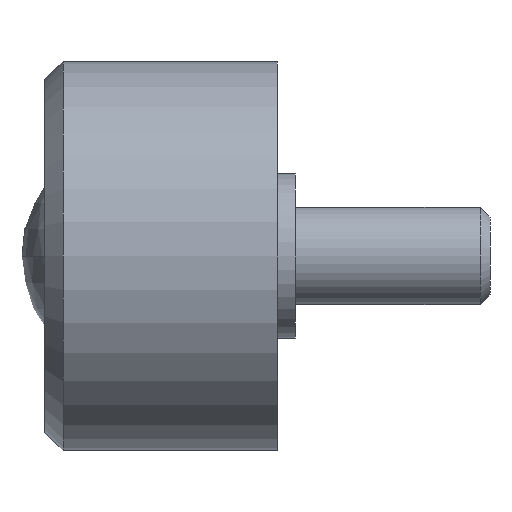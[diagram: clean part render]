
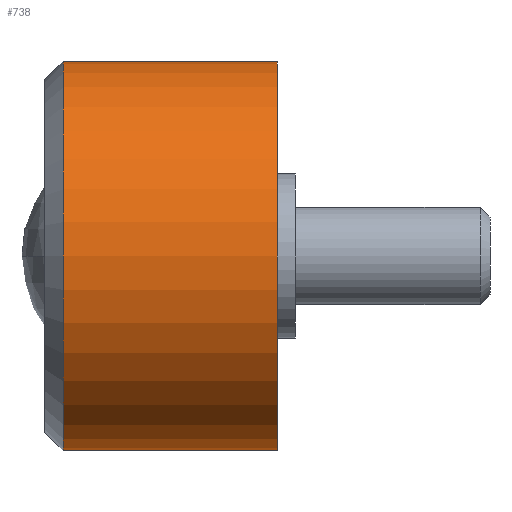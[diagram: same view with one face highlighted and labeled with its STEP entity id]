
A CAD part, left-side view. The second image highlights one B-rep face of the part: STEP entity #738.
In plain terms, the highlighted cylindrical face has radius 16 mm (diameter 32 mm), a partial arc.
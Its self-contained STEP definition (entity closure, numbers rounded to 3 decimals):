
#50 = VECTOR ( 'NONE', #622, 1000. ) ;
#122 = EDGE_CURVE ( 'NONE', #473, #142, #761, .T. ) ;
#137 = AXIS2_PLACEMENT_3D ( 'NONE', #181, #485, #416 ) ;
#142 = VERTEX_POINT ( 'NONE', #421 ) ;
#181 = CARTESIAN_POINT ( 'NONE',  ( 0., 0., 0. ) ) ;
#211 = EDGE_CURVE ( 'NONE', #752, #650, #272, .T. ) ;
#272 = CIRCLE ( 'NONE', #387, 16. ) ;
#292 = CARTESIAN_POINT ( 'NONE',  ( 0., 0., 0. ) ) ;
#295 = FACE_OUTER_BOUND ( 'NONE', #296, .T. ) ;
#296 = EDGE_LOOP ( 'NONE', ( #706, #748, #641, #364 ) ) ;
#315 = LINE ( 'NONE', #436, #530 ) ;
#317 = DIRECTION ( 'NONE',  ( 0., 0., 1. ) ) ;
#355 = CYLINDRICAL_SURFACE ( 'NONE', #740, 16. ) ;
#364 = ORIENTED_EDGE ( 'NONE', *, *, #122, .F. ) ;
#385 = CARTESIAN_POINT ( 'NONE',  ( 0., 17.6, 0. ) ) ;
#387 = AXIS2_PLACEMENT_3D ( 'NONE', #385, #620, #317 ) ;
#390 = CARTESIAN_POINT ( 'NONE',  ( 0., 0., 16. ) ) ;
#416 = DIRECTION ( 'NONE',  ( 0., 0., -1. ) ) ;
#421 = CARTESIAN_POINT ( 'NONE',  ( 0., 0., -16. ) ) ;
#436 = CARTESIAN_POINT ( 'NONE',  ( 0., 0., -16. ) ) ;
#473 = VERTEX_POINT ( 'NONE', #685 ) ;
#482 = DIRECTION ( 'NONE',  ( 0., -1., 0. ) ) ;
#485 = DIRECTION ( 'NONE',  ( 0., -1., 0. ) ) ;
#525 = DIRECTION ( 'NONE',  ( 0., -1., 0. ) ) ;
#530 = VECTOR ( 'NONE', #482, 1000. ) ;
#584 = CARTESIAN_POINT ( 'NONE',  ( 0., 17.6, 16. ) ) ;
#605 = EDGE_CURVE ( 'NONE', #650, #142, #315, .T. ) ;
#620 = DIRECTION ( 'NONE',  ( 0., -1., 0. ) ) ;
#622 = DIRECTION ( 'NONE',  ( 0., -1., 0. ) ) ;
#641 = ORIENTED_EDGE ( 'NONE', *, *, #605, .T. ) ;
#650 = VERTEX_POINT ( 'NONE', #689 ) ;
#685 = CARTESIAN_POINT ( 'NONE',  ( 0., 0., 16. ) ) ;
#689 = CARTESIAN_POINT ( 'NONE',  ( 0., 17.6, -16. ) ) ;
#696 = EDGE_CURVE ( 'NONE', #752, #473, #750, .T. ) ;
#706 = ORIENTED_EDGE ( 'NONE', *, *, #696, .F. ) ;
#738 = ADVANCED_FACE ( 'NONE', ( #295 ), #355, .T. ) ;
#740 = AXIS2_PLACEMENT_3D ( 'NONE', #292, #525, #759 ) ;
#748 = ORIENTED_EDGE ( 'NONE', *, *, #211, .T. ) ;
#750 = LINE ( 'NONE', #390, #50 ) ;
#752 = VERTEX_POINT ( 'NONE', #584 ) ;
#759 = DIRECTION ( 'NONE',  ( 0., 0., -1. ) ) ;
#761 = CIRCLE ( 'NONE', #137, 16. ) ;
